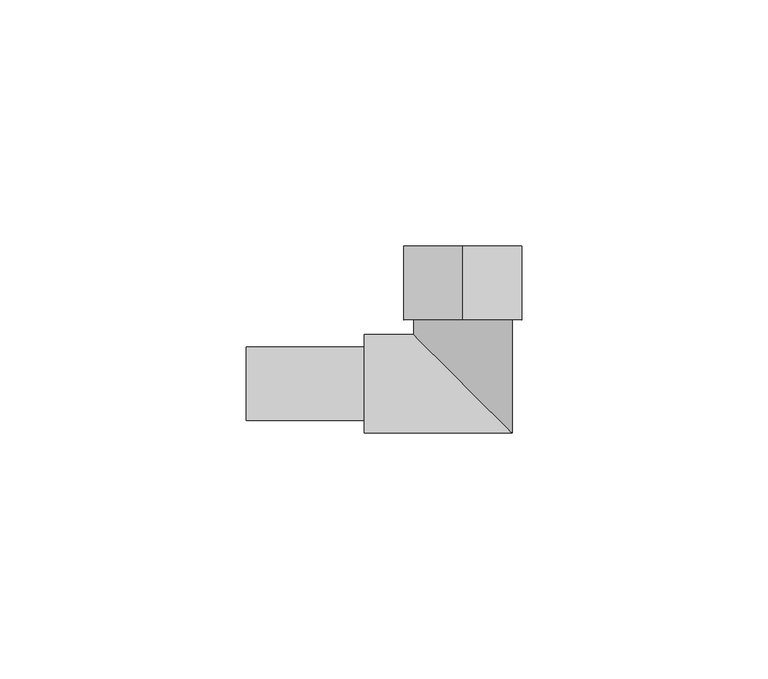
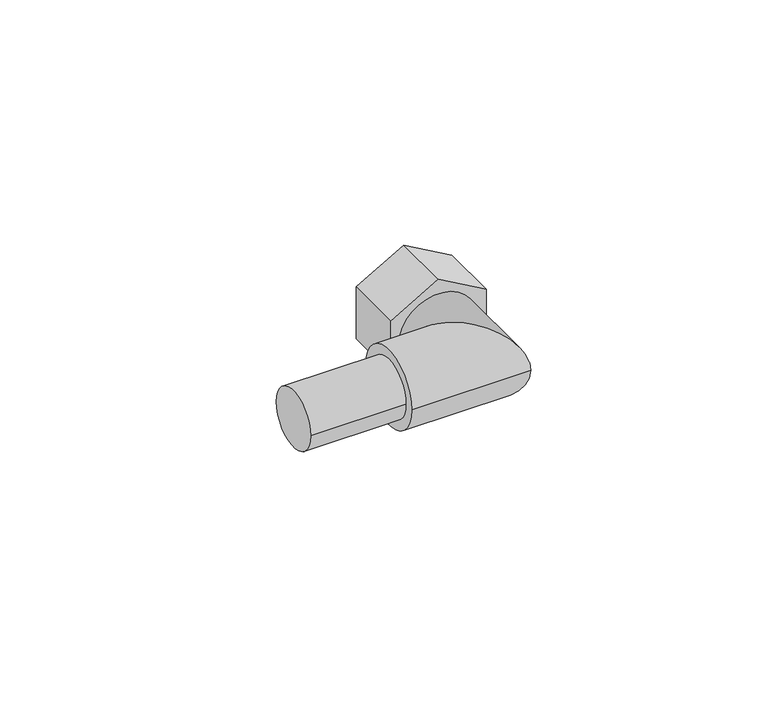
"""IFC4 building model written with IfcOpenShell, lengths in millimetres: pipe fitting geometry, KAN-therm Inox kolano nyplowe z GW krótkie : 15×Rp½ krótkie."""

from ifc_helpers import new_model, si_unit, point, frame, origin, origin_2d, place, context, project, spatial, polyline, circle_curve, ellipse_curve, trimmed, segment, composite_curve, outline, extrude, source, transform, mapped, element, save
from ifc_brep_helpers import plane_surface, cylinder_surface, advanced_brep


def pipe_fitting_3275319e(model_context):
    return source(origin(), model_context, "Body", "SolidModel", [
        extrude(outline(composite_curve([segment(trimmed(circle_curve(origin_2d(), 7.5), [point((-7.5, 0.0))], [point((7.5, 0.0))], False, "CARTESIAN"), True, "CONTINUOUS"), segment(trimmed(circle_curve(origin_2d(), 7.5), [point((7.5, 0.0))], [point((-7.5, 0.0))], False, "CARTESIAN"), True, "CONTINUOUS")], self_intersect=False)), frame((-44.0, 0.0, 0.0), z_axis=(1.0, 0.0, 0.0), x_axis=(0.0, 1.0, 0.0)), (0.0, 0.0, 1.0), 24.0),
        advanced_brep(
        [(-10.0, 13.0, 0.0), (10.0, 13.0, 0.0), (-10.0, 10.0, 0.0), (10.0, -10.0, 0.0), (-20.0, 10.0, 0.0), (-20.0, -10.0, 0.0)],
        [
            (0, 1, circle_curve(frame((0.0, 13.0, 0.0), z_axis=(0.0, 1.0, 0.0), x_axis=(1.0, 0.0, 0.0)), 10.0)),
            (1, 0, circle_curve(frame((0.0, 13.0, 0.0), z_axis=(0.0, 1.0, 0.0), x_axis=(1.0, 0.0, 0.0)), 10.0)),
            (0, 2),
            (2, 3, ellipse_curve(frame((0.0, 0.0, 0.0), z_axis=(0.7071067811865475, 0.7071067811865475, 0.0), x_axis=(-0.7071067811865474, 0.7071067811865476, 0.0)), 14.1421356, 10.0)),
            (3, 1),
            (3, 2, ellipse_curve(frame((0.0, 0.0, 0.0), z_axis=(0.7071067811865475, 0.7071067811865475, 0.0), x_axis=(-0.7071067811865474, 0.7071067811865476, 0.0)), 14.1421356, 10.0)),
            (4, 5, circle_curve(frame((-20.0, 0.0, 0.0), z_axis=(-1.0, 0.0, 0.0), x_axis=(0.0, -1.0, 0.0)), 10.0)),
            (5, 4, circle_curve(frame((-20.0, 0.0, 0.0), z_axis=(-1.0, 0.0, 0.0), x_axis=(0.0, -1.0, 0.0)), 10.0)),
            (2, 4),
            (5, 3),
        ],
        [
            plane_surface(frame((0.0, 13.0, 0.0), z_axis=(0.0, 1.0, 0.0), x_axis=(0.0, 0.0, 1.0))),
            cylinder_surface(frame((0.0, 13.0, 0.0), z_axis=(0.0, 1.0, 0.0), x_axis=(1.0, 0.0, 0.0)), 10.0),
            plane_surface(frame((-20.0, 0.0, 0.0), z_axis=(-1.0, 0.0, 0.0), x_axis=(0.0, 0.0, 1.0))),
            cylinder_surface(frame((0.0, 0.0, 0.0), z_axis=(1.0, 0.0, 0.0), x_axis=(0.0, -1.0, 0.0)), 10.0),
        ],
        [
            (0, [[1, 2]]),
            (1, [[-1, 3, 4, 5]]),
            (1, [[-2, -5, 6, -3]]),
            (2, [[7, 8]]),
            (3, [[-4, 9, -8, 10]]),
            (3, [[-6, -10, -7, -9]]),
        ],
    ),
        extrude(outline(polyline([(13.8564065, 0.0), (6.9282032, -12.0), (-6.9282032, -12.0), (-13.8564065, 0.0), (-6.9282032, 12.0), (6.9282032, 12.0), (13.8564065, 0.0)])), frame((0.0, 13.0, 0.0), z_axis=(0.0, 1.0, 0.0), x_axis=(0.0, 0.0, 1.0)), (0.0, 0.0, 1.0), 15.0),
    ])


if __name__ == "__main__":
    model = new_model("IFC4")
    model_context = context("Model", 3, world=origin())
    ifc_project = project(units=[si_unit("LENGTHUNIT", "METRE", prefix="MILLI")], contexts=[model_context])
    site = spatial("IfcSite", under=ifc_project)
    building = spatial("IfcBuilding", under=site)
    placement = place(None, origin())
    pipe_fitting_shape = pipe_fitting_3275319e(model_context)
    element("IfcPipeFitting", 1, ObjectType="KAN-therm Inox kolano nyplowe z GW krótkie : 15×Rp½ krótkie", at=placement, inside=building, context=model_context, shape_type="MappedRepresentation", body=[
        mapped(pipe_fitting_shape, transform((0.0, 0.0, 0.0), x_axis=(1.0, 0.0, 0.0), y_axis=(0.0, 1.0, 0.0), z_axis=(0.0, 0.0, 1.0))),
    ])
    save(model, "model.ifc")
